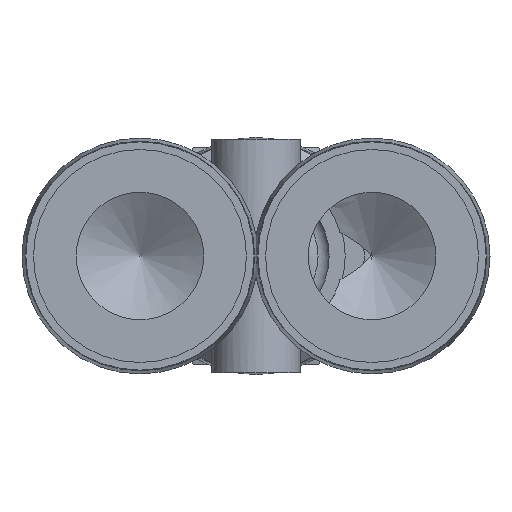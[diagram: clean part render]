
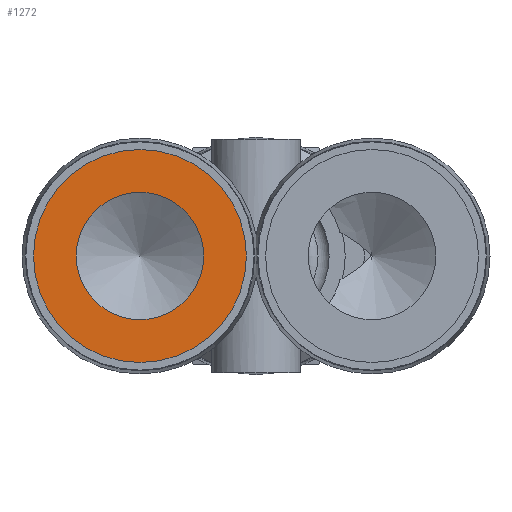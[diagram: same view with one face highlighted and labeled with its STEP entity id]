
A CAD part, front view. The second image highlights one B-rep face of the part: STEP entity #1272.
In plain terms, the highlighted planar face has unit normal (0, -1, 0).
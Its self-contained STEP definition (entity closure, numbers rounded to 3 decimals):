
#105=FACE_BOUND('',#256,.T.);
#124=PLANE('',#1417);
#172=FACE_OUTER_BOUND('',#255,.T.);
#255=EDGE_LOOP('',(#998,#999));
#256=EDGE_LOOP('',(#1000,#1001));
#420=CIRCLE('',#1385,5.);
#421=CIRCLE('',#1386,5.);
#438=CIRCLE('',#1415,8.35);
#439=CIRCLE('',#1416,8.35);
#541=VERTEX_POINT('',#2412);
#542=VERTEX_POINT('',#2413);
#561=VERTEX_POINT('',#2502);
#562=VERTEX_POINT('',#2503);
#691=EDGE_CURVE('',#541,#542,#420,.T.);
#692=EDGE_CURVE('',#542,#541,#421,.T.);
#721=EDGE_CURVE('',#561,#562,#438,.T.);
#723=EDGE_CURVE('',#562,#561,#439,.T.);
#998=ORIENTED_EDGE('',*,*,#721,.F.);
#999=ORIENTED_EDGE('',*,*,#723,.F.);
#1000=ORIENTED_EDGE('',*,*,#691,.T.);
#1001=ORIENTED_EDGE('',*,*,#692,.T.);
#1272=ADVANCED_FACE('',(#172,#105),#124,.F.);
#1385=AXIS2_PLACEMENT_3D('',#2414,#1625,#1626);
#1386=AXIS2_PLACEMENT_3D('',#2415,#1627,#1628);
#1415=AXIS2_PLACEMENT_3D('',#2504,#1693,#1694);
#1416=AXIS2_PLACEMENT_3D('',#2506,#1696,#1697);
#1417=AXIS2_PLACEMENT_3D('',#2507,#1698,#1699);
#1625=DIRECTION('center_axis',(0.,1.,0.));
#1626=DIRECTION('ref_axis',(1.,0.,0.));
#1627=DIRECTION('center_axis',(0.,1.,0.));
#1628=DIRECTION('ref_axis',(1.,0.,0.));
#1693=DIRECTION('center_axis',(0.,1.,0.));
#1694=DIRECTION('ref_axis',(-1.,0.,0.));
#1696=DIRECTION('center_axis',(0.,1.,0.));
#1697=DIRECTION('ref_axis',(-1.,0.,0.));
#1698=DIRECTION('center_axis',(0.,1.,0.));
#1699=DIRECTION('ref_axis',(0.,0.,-1.));
#2412=CARTESIAN_POINT('',(-4.1,-20.8,0.));
#2413=CARTESIAN_POINT('',(-14.1,-20.8,0.));
#2414=CARTESIAN_POINT('Origin',(-9.1,-20.8,0.));
#2415=CARTESIAN_POINT('Origin',(-9.1,-20.8,0.));
#2502=CARTESIAN_POINT('',(-17.45,-20.8,0.));
#2503=CARTESIAN_POINT('',(-0.75,-20.8,0.));
#2504=CARTESIAN_POINT('Origin',(-9.1,-20.8,0.));
#2506=CARTESIAN_POINT('Origin',(-9.1,-20.8,0.));
#2507=CARTESIAN_POINT('Origin',(-9.1,-20.8,0.));
